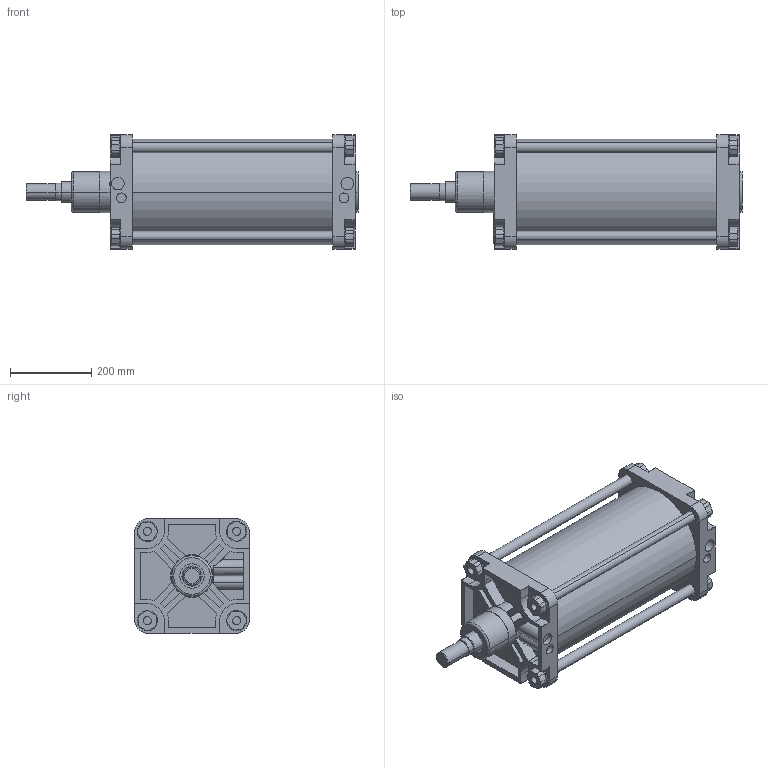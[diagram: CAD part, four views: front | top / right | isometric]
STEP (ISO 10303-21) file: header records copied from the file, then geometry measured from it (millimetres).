
FILE_DESCRIPTION(('CATIA V5 STEP Exchange'),'2;1');
FILE_NAME('D:\stp file for catalog\PNC\250\PNC 250-50-400.stp','2015-10-25T14:18:45+00:00',('none'),('none'),'Version 5-6 Release 2012','CATIA V5 STEP AP203','none');
FILE_SCHEMA(('CONFIG_CONTROL_DESIGN'));
Length unit declared in the file: millimetre
Products named in the file (1): PNC 250-50-400-00
Assembly tree (2 placements, depth 2):
  PNC 250-50-400-00
    #58
    #15305
Bounding box: 818 x 282 x 282 mm (x, y, z)
Volume: 12538869.4 mm3; surface area: 1839314.6 mm2
Topology: 2 solids, 2 shells, 556 faces, 1428 edges, 944 vertices
Faces by surface type: plane 316, cylinder 196, cone 42, torus 2
Entity records: 15751 total; most frequent: CARTESIAN_POINT 3340, ORIENTED_EDGE 2856, DIRECTION 1929, EDGE_CURVE 1428, VERTEX_POINT 944, VECTOR 904, LINE 904, AXIS2_PLACEMENT_3D 718
